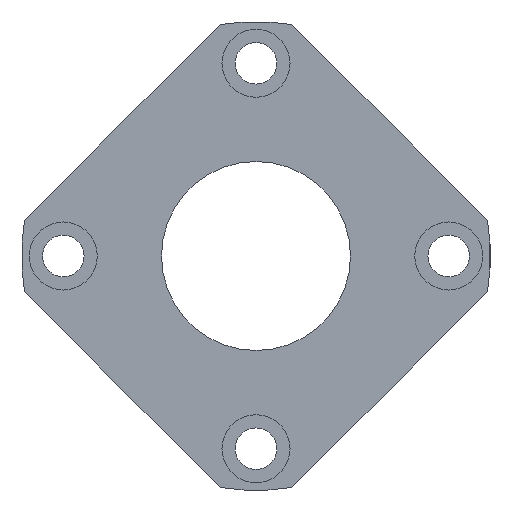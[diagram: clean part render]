
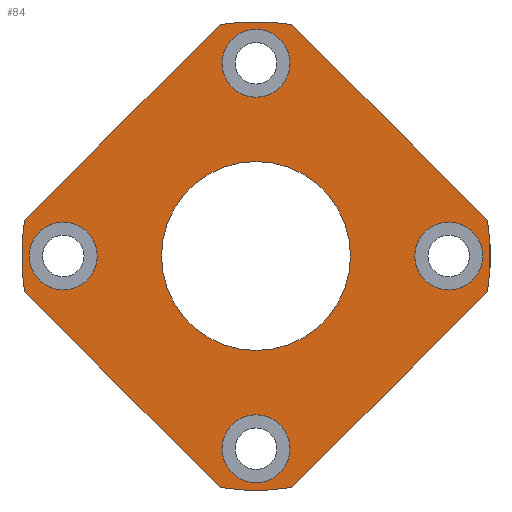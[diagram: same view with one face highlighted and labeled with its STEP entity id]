
A CAD part, left-side view. The second image highlights one B-rep face of the part: STEP entity #84.
In plain terms, the highlighted planar face has unit normal (-1, 0, 0).
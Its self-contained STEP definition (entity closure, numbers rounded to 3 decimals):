
#84 = ADVANCED_FACE( '', ( #125, #126, #127, #128, #129, #130 ), #131, .T. );
#125 = FACE_BOUND( '', #200, .T. );
#126 = FACE_BOUND( '', #201, .T. );
#127 = FACE_OUTER_BOUND( '', #202, .T. );
#128 = FACE_BOUND( '', #203, .T. );
#129 = FACE_BOUND( '', #204, .T. );
#130 = FACE_BOUND( '', #205, .T. );
#131 = PLANE( '', #206 );
#200 = EDGE_LOOP( '', ( #321 ) );
#201 = EDGE_LOOP( '', ( #322 ) );
#202 = EDGE_LOOP( '', ( #323, #324, #325, #326, #327, #328, #329, #330 ) );
#203 = EDGE_LOOP( '', ( #331 ) );
#204 = EDGE_LOOP( '', ( #332 ) );
#205 = EDGE_LOOP( '', ( #333 ) );
#206 = AXIS2_PLACEMENT_3D( '', #334, #335, #336 );
#321 = ORIENTED_EDGE( '', *, *, #444, .T. );
#322 = ORIENTED_EDGE( '', *, *, #434, .T. );
#323 = ORIENTED_EDGE( '', *, *, #445, .F. );
#324 = ORIENTED_EDGE( '', *, *, #430, .F. );
#325 = ORIENTED_EDGE( '', *, *, #419, .F. );
#326 = ORIENTED_EDGE( '', *, *, #427, .F. );
#327 = ORIENTED_EDGE( '', *, *, #415, .F. );
#328 = ORIENTED_EDGE( '', *, *, #429, .F. );
#329 = ORIENTED_EDGE( '', *, *, #423, .F. );
#330 = ORIENTED_EDGE( '', *, *, #443, .F. );
#331 = ORIENTED_EDGE( '', *, *, #446, .T. );
#332 = ORIENTED_EDGE( '', *, *, #447, .T. );
#333 = ORIENTED_EDGE( '', *, *, #448, .T. );
#334 = CARTESIAN_POINT( '', ( 0., 31., 0. ) );
#335 = DIRECTION( '', ( -1., 0., 0. ) );
#336 = DIRECTION( '', ( 0., 0., 1. ) );
#415 = EDGE_CURVE( '', #459, #461, #462, .T. );
#419 = EDGE_CURVE( '', #467, #469, #470, .T. );
#423 = EDGE_CURVE( '', #475, #477, #478, .T. );
#427 = EDGE_CURVE( '', #461, #467, #483, .T. );
#429 = EDGE_CURVE( '', #477, #459, #485, .T. );
#430 = EDGE_CURVE( '', #469, #486, #487, .T. );
#434 = EDGE_CURVE( '', #493, #493, #494, .F. );
#443 = EDGE_CURVE( '', #508, #475, #510, .T. );
#444 = EDGE_CURVE( '', #511, #511, #512, .T. );
#445 = EDGE_CURVE( '', #486, #508, #513, .T. );
#446 = EDGE_CURVE( '', #514, #514, #515, .T. );
#447 = EDGE_CURVE( '', #516, #516, #517, .T. );
#448 = EDGE_CURVE( '', #518, #518, #519, .T. );
#459 = VERTEX_POINT( '', #539 );
#461 = VERTEX_POINT( '', #542 );
#462 = LINE( '', #543, #544 );
#467 = VERTEX_POINT( '', #551 );
#469 = VERTEX_POINT( '', #554 );
#470 = LINE( '', #555, #556 );
#475 = VERTEX_POINT( '', #563 );
#477 = VERTEX_POINT( '', #566 );
#478 = LINE( '', #567, #568 );
#483 = CIRCLE( '', #575, 31. );
#485 = CIRCLE( '', #577, 31. );
#486 = VERTEX_POINT( '', #578 );
#487 = CIRCLE( '', #579, 31. );
#493 = VERTEX_POINT( '', #586 );
#494 = CIRCLE( '', #587, 4.5 );
#508 = VERTEX_POINT( '', #602 );
#510 = CIRCLE( '', #605, 31. );
#511 = VERTEX_POINT( '', #606 );
#512 = CIRCLE( '', #607, 12.5 );
#513 = LINE( '', #608, #609 );
#514 = VERTEX_POINT( '', #610 );
#515 = CIRCLE( '', #611, 4.5 );
#516 = VERTEX_POINT( '', #612 );
#517 = CIRCLE( '', #613, 4.5 );
#518 = VERTEX_POINT( '', #614 );
#519 = CIRCLE( '', #615, 4.5 );
#539 = CARTESIAN_POINT( '', ( 0., -30.639, -4.716 ) );
#542 = CARTESIAN_POINT( '', ( 0., -4.716, -30.639 ) );
#543 = CARTESIAN_POINT( '', ( 0., -35.355, 0. ) );
#544 = VECTOR( '', #635, 1000. );
#551 = CARTESIAN_POINT( '', ( 0., 4.716, -30.639 ) );
#554 = CARTESIAN_POINT( '', ( 0., 30.639, -4.716 ) );
#555 = CARTESIAN_POINT( '', ( 0., 0., -35.355 ) );
#556 = VECTOR( '', #639, 1000. );
#563 = CARTESIAN_POINT( '', ( 0., -4.716, 30.639 ) );
#566 = CARTESIAN_POINT( '', ( 0., -30.639, 4.716 ) );
#567 = CARTESIAN_POINT( '', ( 0., 0., 35.355 ) );
#568 = VECTOR( '', #643, 1000. );
#575 = AXIS2_PLACEMENT_3D( '', #649, #650, #651 );
#577 = AXIS2_PLACEMENT_3D( '', #655, #656, #657 );
#578 = CARTESIAN_POINT( '', ( 0., 30.639, 4.716 ) );
#579 = AXIS2_PLACEMENT_3D( '', #658, #659, #660 );
#586 = CARTESIAN_POINT( '', ( 0., 25.5, 4.5 ) );
#587 = AXIS2_PLACEMENT_3D( '', #668, #669, #670 );
#602 = CARTESIAN_POINT( '', ( 0., 4.716, 30.639 ) );
#605 = AXIS2_PLACEMENT_3D( '', #691, #692, #693 );
#606 = CARTESIAN_POINT( '', ( 0., 0., -12.5 ) );
#607 = AXIS2_PLACEMENT_3D( '', #694, #695, #696 );
#608 = CARTESIAN_POINT( '', ( 0., 35.355, 0. ) );
#609 = VECTOR( '', #697, 1000. );
#610 = CARTESIAN_POINT( '', ( 0., 0., 21. ) );
#611 = AXIS2_PLACEMENT_3D( '', #698, #699, #700 );
#612 = CARTESIAN_POINT( '', ( 0., 0., -30. ) );
#613 = AXIS2_PLACEMENT_3D( '', #701, #702, #703 );
#614 = CARTESIAN_POINT( '', ( 0., -25.5, -4.5 ) );
#615 = AXIS2_PLACEMENT_3D( '', #704, #705, #706 );
#635 = DIRECTION( '', ( 0., 0.707, -0.707 ) );
#639 = DIRECTION( '', ( 0., 0.707, 0.707 ) );
#643 = DIRECTION( '', ( 0., -0.707, -0.707 ) );
#649 = CARTESIAN_POINT( '', ( 0., 0., 0. ) );
#650 = DIRECTION( '', ( 1., 0., 0. ) );
#651 = DIRECTION( '', ( 0., 0., -1. ) );
#655 = CARTESIAN_POINT( '', ( 0., 0., 0. ) );
#656 = DIRECTION( '', ( 1., 0., 0. ) );
#657 = DIRECTION( '', ( 0., 0., -1. ) );
#658 = CARTESIAN_POINT( '', ( 0., 0., 0. ) );
#659 = DIRECTION( '', ( 1., 0., 0. ) );
#660 = DIRECTION( '', ( 0., 0., -1. ) );
#668 = CARTESIAN_POINT( '', ( 0., 25.5, 0. ) );
#669 = DIRECTION( '', ( -1., 0., 0. ) );
#670 = DIRECTION( '', ( 0., 0., 1. ) );
#691 = CARTESIAN_POINT( '', ( 0., 0., 0. ) );
#692 = DIRECTION( '', ( 1., 0., 0. ) );
#693 = DIRECTION( '', ( 0., 0., -1. ) );
#694 = CARTESIAN_POINT( '', ( 0., 0., 0. ) );
#695 = DIRECTION( '', ( 1., 0., 0. ) );
#696 = DIRECTION( '', ( 0., 0., -1. ) );
#697 = DIRECTION( '', ( 0., -0.707, 0.707 ) );
#698 = CARTESIAN_POINT( '', ( 0., 0., 25.5 ) );
#699 = DIRECTION( '', ( 1., 0., 0. ) );
#700 = DIRECTION( '', ( 0., 0., -1. ) );
#701 = CARTESIAN_POINT( '', ( 0., 0., -25.5 ) );
#702 = DIRECTION( '', ( 1., 0., 0. ) );
#703 = DIRECTION( '', ( 0., 0., -1. ) );
#704 = CARTESIAN_POINT( '', ( 0., -25.5, 0. ) );
#705 = DIRECTION( '', ( 1., 0., 0. ) );
#706 = DIRECTION( '', ( 0., 0., -1. ) );
